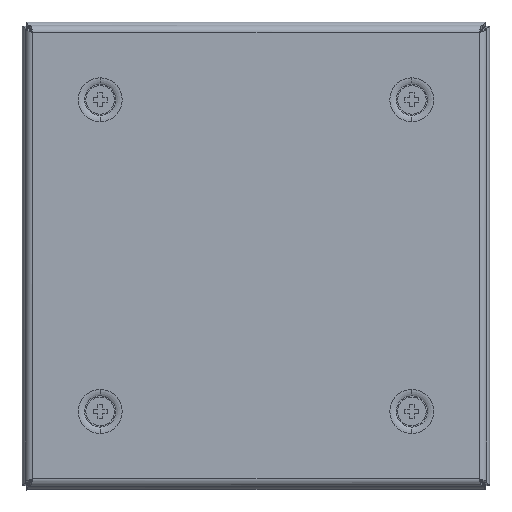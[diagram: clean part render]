
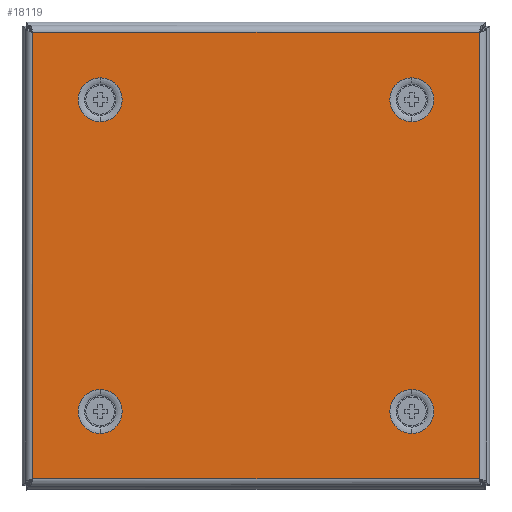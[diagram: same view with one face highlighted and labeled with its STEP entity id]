
A CAD part, top view. The second image highlights one B-rep face of the part: STEP entity #18119.
In plain terms, the highlighted planar face has unit normal (0, 0, 1).
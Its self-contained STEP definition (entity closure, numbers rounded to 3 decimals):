
#366 = DIRECTION ( 'NONE',  ( 0., 0., 1. ) ) ;
#558 = EDGE_CURVE ( 'NONE', #10091, #2471, #25554, .T. ) ;
#1049 = VERTEX_POINT ( 'NONE', #19255 ) ;
#1388 = DIRECTION ( 'NONE',  ( 0., -1., 0. ) ) ;
#1422 = DIRECTION ( 'NONE',  ( -1., 0., 0. ) ) ;
#1686 = CARTESIAN_POINT ( 'NONE',  ( -50., -57.05, 0. ) ) ;
#1999 = CARTESIAN_POINT ( 'NONE',  ( 0., 0., 0. ) ) ;
#2067 = CARTESIAN_POINT ( 'NONE',  ( 50., 50., 0. ) ) ;
#2174 = LINE ( 'NONE', #21850, #20430 ) ;
#2283 = FACE_OUTER_BOUND ( 'NONE', #18161, .T. ) ;
#2471 = VERTEX_POINT ( 'NONE', #26192 ) ;
#2693 = VERTEX_POINT ( 'NONE', #13728 ) ;
#2731 = CIRCLE ( 'NONE', #18876, 7.05 ) ;
#3218 = CARTESIAN_POINT ( 'NONE',  ( -50., 57.05, 0. ) ) ;
#3550 = CARTESIAN_POINT ( 'NONE',  ( -71.6, 72.659, 0. ) ) ;
#3663 = CIRCLE ( 'NONE', #19368, 7.05 ) ;
#4000 = ORIENTED_EDGE ( 'NONE', *, *, #12173, .F. ) ;
#4160 = FACE_BOUND ( 'NONE', #18497, .T. ) ;
#4271 = AXIS2_PLACEMENT_3D ( 'NONE', #27512, #16357, #9848 ) ;
#4449 = PLANE ( 'NONE',  #13267 ) ;
#4516 = VERTEX_POINT ( 'NONE', #1686 ) ;
#4555 = LINE ( 'NONE', #18146, #21299 ) ;
#4565 = CARTESIAN_POINT ( 'NONE',  ( 72.659, 71.6, 0. ) ) ;
#4642 = EDGE_CURVE ( 'NONE', #2693, #5134, #2731, .T. ) ;
#5134 = VERTEX_POINT ( 'NONE', #3218 ) ;
#5257 = AXIS2_PLACEMENT_3D ( 'NONE', #8601, #23647, #19726 ) ;
#5495 = VERTEX_POINT ( 'NONE', #27364 ) ;
#5543 = VERTEX_POINT ( 'NONE', #22868 ) ;
#5958 = DIRECTION ( 'NONE',  ( 0., -1., 0. ) ) ;
#8586 = DIRECTION ( 'NONE',  ( 0., 0., 1. ) ) ;
#8601 = CARTESIAN_POINT ( 'NONE',  ( 50., -50., 0. ) ) ;
#8795 = DIRECTION ( 'NONE',  ( 1., 0., 0. ) ) ;
#8942 = AXIS2_PLACEMENT_3D ( 'NONE', #10649, #28337, #12965 ) ;
#8984 = ORIENTED_EDGE ( 'NONE', *, *, #558, .T. ) ;
#9848 = DIRECTION ( 'NONE',  ( 0., -1., 0. ) ) ;
#10027 = ORIENTED_EDGE ( 'NONE', *, *, #4642, .F. ) ;
#10091 = VERTEX_POINT ( 'NONE', #13137 ) ;
#10270 = EDGE_LOOP ( 'NONE', ( #10027, #26346 ) ) ;
#10383 = CARTESIAN_POINT ( 'NONE',  ( 50., 42.95, 0. ) ) ;
#10649 = CARTESIAN_POINT ( 'NONE',  ( -50., -50., 0. ) ) ;
#10814 = DIRECTION ( 'NONE',  ( 0., 0., 1. ) ) ;
#10839 = EDGE_CURVE ( 'NONE', #4516, #20319, #16749, .T. ) ;
#10920 = DIRECTION ( 'NONE',  ( 0., 1., 0. ) ) ;
#10932 = ORIENTED_EDGE ( 'NONE', *, *, #15780, .F. ) ;
#11353 = EDGE_CURVE ( 'NONE', #5134, #2693, #18596, .T. ) ;
#11769 = DIRECTION ( 'NONE',  ( 0., 0., 1. ) ) ;
#11871 = EDGE_CURVE ( 'NONE', #20319, #4516, #27897, .T. ) ;
#12062 = VERTEX_POINT ( 'NONE', #12358 ) ;
#12173 = EDGE_CURVE ( 'NONE', #12062, #5543, #22828, .T. ) ;
#12355 = DIRECTION ( 'NONE',  ( 0., -1., 0. ) ) ;
#12358 = CARTESIAN_POINT ( 'NONE',  ( 50., -42.95, 0. ) ) ;
#12784 = ORIENTED_EDGE ( 'NONE', *, *, #16199, .T. ) ;
#12965 = DIRECTION ( 'NONE',  ( 0., -1., 0. ) ) ;
#12977 = FACE_BOUND ( 'NONE', #10270, .T. ) ;
#13137 = CARTESIAN_POINT ( 'NONE',  ( -71.6, 71.6, 0. ) ) ;
#13154 = DIRECTION ( 'NONE',  ( 1., 0., 0. ) ) ;
#13267 = AXIS2_PLACEMENT_3D ( 'NONE', #1999, #10814, #8795 ) ;
#13728 = CARTESIAN_POINT ( 'NONE',  ( -50., 42.95, 0. ) ) ;
#13783 = VERTEX_POINT ( 'NONE', #21047 ) ;
#14507 = ORIENTED_EDGE ( 'NONE', *, *, #11871, .F. ) ;
#14633 = CIRCLE ( 'NONE', #19702, 7.05 ) ;
#14727 = LINE ( 'NONE', #4565, #25703 ) ;
#15780 = EDGE_CURVE ( 'NONE', #13783, #21811, #25681, .T. ) ;
#15836 = EDGE_LOOP ( 'NONE', ( #23033, #10932 ) ) ;
#15972 = VECTOR ( 'NONE', #12355, 1000. ) ;
#16045 = ORIENTED_EDGE ( 'NONE', *, *, #10839, .F. ) ;
#16120 = CARTESIAN_POINT ( 'NONE',  ( -50., 50., 0. ) ) ;
#16199 = EDGE_CURVE ( 'NONE', #1049, #10091, #14727, .T. ) ;
#16357 = DIRECTION ( 'NONE',  ( 0., 0., 1. ) ) ;
#16749 = CIRCLE ( 'NONE', #4271, 7.05 ) ;
#17319 = FACE_BOUND ( 'NONE', #15836, .T. ) ;
#17405 = DIRECTION ( 'NONE',  ( 0., -1., 0. ) ) ;
#17523 = EDGE_LOOP ( 'NONE', ( #27956, #4000 ) ) ;
#17570 = EDGE_CURVE ( 'NONE', #21811, #13783, #14633, .T. ) ;
#17785 = CARTESIAN_POINT ( 'NONE',  ( -50., -42.95, 0. ) ) ;
#18119 = ADVANCED_FACE ( 'NONE', ( #21523, #17319, #4160, #12977, #2283 ), #4449, .T. ) ;
#18146 = CARTESIAN_POINT ( 'NONE',  ( 71.6, -72.659, 0. ) ) ;
#18161 = EDGE_LOOP ( 'NONE', ( #8984, #21232, #26575, #12784 ) ) ;
#18497 = EDGE_LOOP ( 'NONE', ( #16045, #14507 ) ) ;
#18596 = CIRCLE ( 'NONE', #26484, 7.05 ) ;
#18719 = AXIS2_PLACEMENT_3D ( 'NONE', #23921, #8586, #17405 ) ;
#18876 = AXIS2_PLACEMENT_3D ( 'NONE', #16120, #11769, #23349 ) ;
#19255 = CARTESIAN_POINT ( 'NONE',  ( 71.6, 71.6, 0. ) ) ;
#19368 = AXIS2_PLACEMENT_3D ( 'NONE', #22377, #366, #1388 ) ;
#19614 = DIRECTION ( 'NONE',  ( 0., -1., 0. ) ) ;
#19702 = AXIS2_PLACEMENT_3D ( 'NONE', #2067, #24054, #5958 ) ;
#19726 = DIRECTION ( 'NONE',  ( 0., -1., 0. ) ) ;
#20319 = VERTEX_POINT ( 'NONE', #17785 ) ;
#20430 = VECTOR ( 'NONE', #13154, 1000. ) ;
#21047 = CARTESIAN_POINT ( 'NONE',  ( 50., 57.05, 0. ) ) ;
#21232 = ORIENTED_EDGE ( 'NONE', *, *, #26017, .T. ) ;
#21299 = VECTOR ( 'NONE', #10920, 1000. ) ;
#21523 = FACE_BOUND ( 'NONE', #17523, .T. ) ;
#21795 = DIRECTION ( 'NONE',  ( 0., 0., 1. ) ) ;
#21811 = VERTEX_POINT ( 'NONE', #10383 ) ;
#21850 = CARTESIAN_POINT ( 'NONE',  ( -72.659, -71.6, 0. ) ) ;
#22377 = CARTESIAN_POINT ( 'NONE',  ( 50., -50., 0. ) ) ;
#22425 = EDGE_CURVE ( 'NONE', #5543, #12062, #3663, .T. ) ;
#22828 = CIRCLE ( 'NONE', #5257, 7.05 ) ;
#22868 = CARTESIAN_POINT ( 'NONE',  ( 50., -57.05, 0. ) ) ;
#23033 = ORIENTED_EDGE ( 'NONE', *, *, #17570, .F. ) ;
#23349 = DIRECTION ( 'NONE',  ( 0., -1., 0. ) ) ;
#23647 = DIRECTION ( 'NONE',  ( 0., 0., 1. ) ) ;
#23679 = CARTESIAN_POINT ( 'NONE',  ( -50., 50., 0. ) ) ;
#23921 = CARTESIAN_POINT ( 'NONE',  ( 50., 50., 0. ) ) ;
#24054 = DIRECTION ( 'NONE',  ( 0., 0., 1. ) ) ;
#25077 = EDGE_CURVE ( 'NONE', #5495, #1049, #4555, .T. ) ;
#25554 = LINE ( 'NONE', #3550, #15972 ) ;
#25681 = CIRCLE ( 'NONE', #18719, 7.05 ) ;
#25703 = VECTOR ( 'NONE', #1422, 1000. ) ;
#26017 = EDGE_CURVE ( 'NONE', #2471, #5495, #2174, .T. ) ;
#26192 = CARTESIAN_POINT ( 'NONE',  ( -71.6, -71.6, 0. ) ) ;
#26346 = ORIENTED_EDGE ( 'NONE', *, *, #11353, .F. ) ;
#26484 = AXIS2_PLACEMENT_3D ( 'NONE', #23679, #21795, #19614 ) ;
#26575 = ORIENTED_EDGE ( 'NONE', *, *, #25077, .T. ) ;
#27364 = CARTESIAN_POINT ( 'NONE',  ( 71.6, -71.6, 0. ) ) ;
#27512 = CARTESIAN_POINT ( 'NONE',  ( -50., -50., 0. ) ) ;
#27897 = CIRCLE ( 'NONE', #8942, 7.05 ) ;
#27956 = ORIENTED_EDGE ( 'NONE', *, *, #22425, .F. ) ;
#28337 = DIRECTION ( 'NONE',  ( 0., 0., 1. ) ) ;
